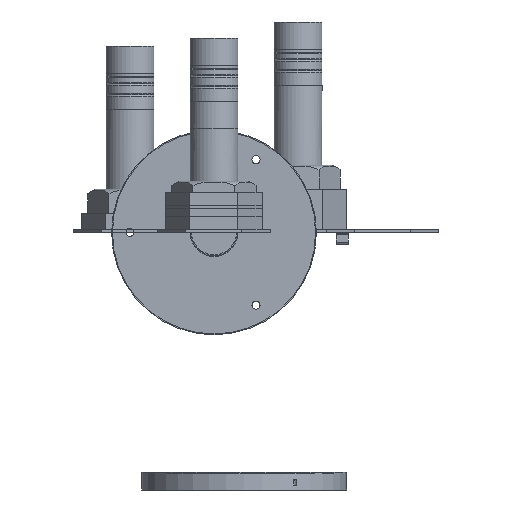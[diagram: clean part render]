
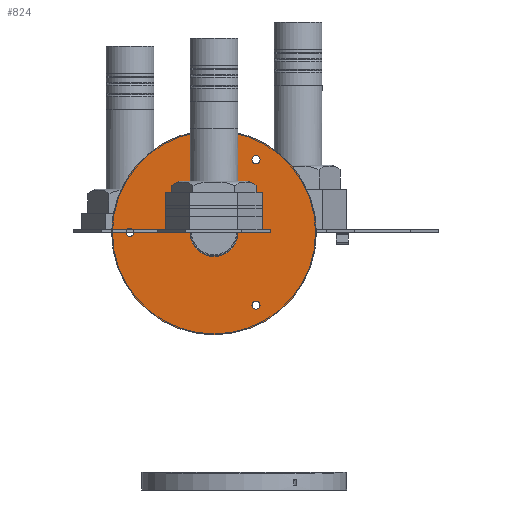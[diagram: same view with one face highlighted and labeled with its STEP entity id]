
A CAD part, front view. The second image highlights one B-rep face of the part: STEP entity #824.
In plain terms, the highlighted planar face has unit normal (0, -1, 0).
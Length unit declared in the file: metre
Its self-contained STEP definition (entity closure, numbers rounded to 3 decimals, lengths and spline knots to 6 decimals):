
#824 = ADVANCED_FACE( '', ( #1202, #1203, #1204, #1205, #1206 ), #1207, .F. );
#1202 = FACE_BOUND( '', #1633, .T. );
#1203 = FACE_BOUND( '', #1634, .T. );
#1204 = FACE_BOUND( '', #1635, .T. );
#1205 = FACE_BOUND( '', #1636, .T. );
#1206 = FACE_OUTER_BOUND( '', #1637, .T. );
#1207 = PLANE( '', #1638 );
#1633 = EDGE_LOOP( '', ( #2726 ) );
#1634 = EDGE_LOOP( '', ( #2727 ) );
#1635 = EDGE_LOOP( '', ( #2728 ) );
#1636 = EDGE_LOOP( '', ( #2729 ) );
#1637 = EDGE_LOOP( '', ( #2730 ) );
#1638 = AXIS2_PLACEMENT_3D( '', #2731, #2732, #2733 );
#2726 = ORIENTED_EDGE( '', *, *, #3144, .T. );
#2727 = ORIENTED_EDGE( '', *, *, #3145, .T. );
#2728 = ORIENTED_EDGE( '', *, *, #3146, .T. );
#2729 = ORIENTED_EDGE( '', *, *, #3138, .T. );
#2730 = ORIENTED_EDGE( '', *, *, #3102, .F. );
#2731 = CARTESIAN_POINT( '', ( 0., 0., 0. ) );
#2732 = DIRECTION( '', ( 0., 1., 0. ) );
#2733 = DIRECTION( '', ( 0., 0., 1. ) );
#3102 = EDGE_CURVE( '', #3655, #3655, #3656, .T. );
#3138 = EDGE_CURVE( '', #3719, #3719, #3720, .T. );
#3144 = EDGE_CURVE( '', #3729, #3729, #3730, .T. );
#3145 = EDGE_CURVE( '', #3731, #3731, #3732, .T. );
#3146 = EDGE_CURVE( '', #3733, #3733, #3734, .T. );
#3655 = VERTEX_POINT( '', #4739 );
#3656 = CIRCLE( '', #4740, 0.128 );
#3719 = VERTEX_POINT( '', #4901 );
#3720 = CIRCLE( '', #4902, 0.00525 );
#3729 = VERTEX_POINT( '', #4913 );
#3730 = CIRCLE( '', #4914, 0.005 );
#3731 = VERTEX_POINT( '', #4915 );
#3732 = CIRCLE( '', #4916, 0.005 );
#3733 = VERTEX_POINT( '', #4917 );
#3734 = CIRCLE( '', #4918, 0.005 );
#4739 = CARTESIAN_POINT( '', ( 0.128, 0., 0. ) );
#4740 = AXIS2_PLACEMENT_3D( '', #5362, #5363, #5364 );
#4901 = CARTESIAN_POINT( '', ( 0., 0., 0.00525 ) );
#4902 = AXIS2_PLACEMENT_3D( '', #5406, #5407, #5408 );
#4913 = CARTESIAN_POINT( '', ( -0.105, 0., 0.005 ) );
#4914 = AXIS2_PLACEMENT_3D( '', #5420, #5421, #5422 );
#4915 = CARTESIAN_POINT( '', ( 0.0525, 0., -0.085933 ) );
#4916 = AXIS2_PLACEMENT_3D( '', #5423, #5424, #5425 );
#4917 = CARTESIAN_POINT( '', ( 0.0525, 0., 0.095933 ) );
#4918 = AXIS2_PLACEMENT_3D( '', #5426, #5427, #5428 );
#5362 = CARTESIAN_POINT( '', ( 0., 0., 0. ) );
#5363 = DIRECTION( '', ( 0., 1., 0. ) );
#5364 = DIRECTION( '', ( 1., 0., 0. ) );
#5406 = CARTESIAN_POINT( '', ( 0., 0., 0. ) );
#5407 = DIRECTION( '', ( 0., 1., 0. ) );
#5408 = DIRECTION( '', ( 0., 0., 1. ) );
#5420 = CARTESIAN_POINT( '', ( -0.105, 0., 0. ) );
#5421 = DIRECTION( '', ( 0., 1., 0. ) );
#5422 = DIRECTION( '', ( 0., 0., 1. ) );
#5423 = CARTESIAN_POINT( '', ( 0.0525, 0., -0.090933 ) );
#5424 = DIRECTION( '', ( 0., 1., 0. ) );
#5425 = DIRECTION( '', ( 0., 0., 1. ) );
#5426 = CARTESIAN_POINT( '', ( 0.0525, 0., 0.090933 ) );
#5427 = DIRECTION( '', ( 0., 1., 0. ) );
#5428 = DIRECTION( '', ( 0., 0., 1. ) );
